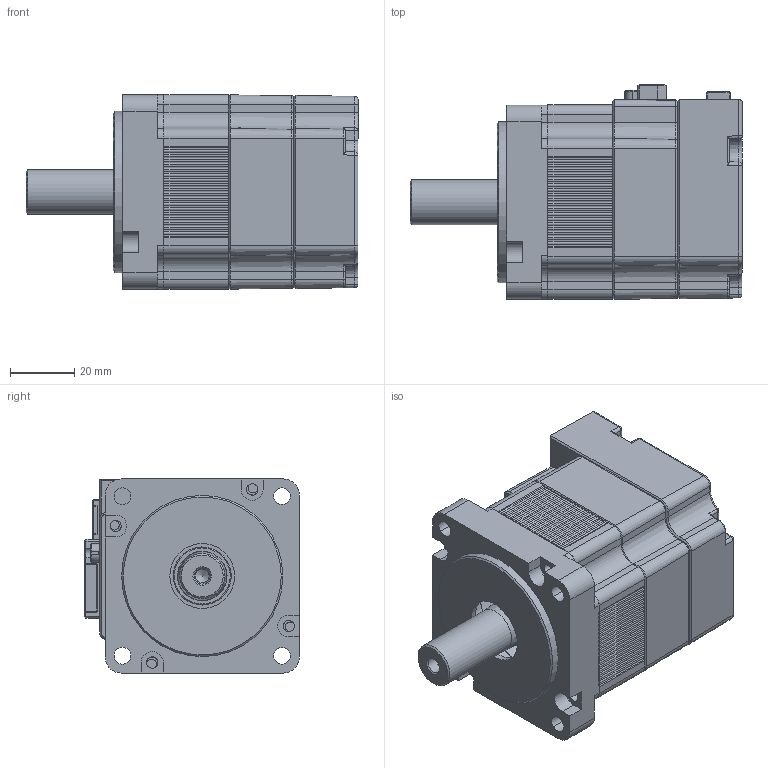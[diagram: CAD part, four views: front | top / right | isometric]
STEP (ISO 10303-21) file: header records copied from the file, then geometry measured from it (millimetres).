
FILE_DESCRIPTION (( 'STEP AP203' ), '1' );
FILE_NAME ('﹤60-200W NON-BRAKE ASS''Y(棻檜議蝶た 瞳辨)_rev02.STEP', '2024-09-12T05:56:53', ( '' ), ( '' ), 'SwSTEP 2.0', 'SolidWorks 2023', '' );
FILE_SCHEMA (( 'CONFIG_CONTROL_DESIGN' ));
Length unit declared in the file: millimetre
Products named in the file (8): 60-200W 야스카와 베어링 변경 플랜지; □60-200W NON-BRAKE ASS''Y(다이캐스팅 적용)_rev02; □60-200W SHAFT(세메스); □60 BRACKET(NON BRAKE)_다이캐스팅 가공도; ENCODER Receptacle; □60-200W FRAME; POWER RECEPTACLE; □60 ENCODER COVER_다이캐스팅 가공도
Assembly tree (7 placements, depth 2):
  □60-200W NON-BRAKE ASS''Y(다이캐스팅 적용)_rev02
    □60-200W FRAME
    ENCODER Receptacle
    POWER RECEPTACLE
    □60 ENCODER COVER_다이캐스팅 가공도
    □60 BRACKET(NON BRAKE)_다이캐스팅 가공도
    □60-200W SHAFT(세메스)
    60-200W 야스카와 베어링 변경 플랜지
Bounding box: 103 x 66.65 x 60.3 mm (x, y, z)
Volume: 99868.9 mm3; surface area: 61413.7 mm2
Topology: 7 solids, 13 shells, 1638 faces, 4210 edges, 2658 vertices
Faces by surface type: plane 964, cylinder 380, bspline 133, cone 108, torus 41, sphere 12
Full cylindrical faces by diameter (mm): 1.93 x1, 2 x9, 2.6 x2, 3 x10, 3.2 x1, 3.5 x4, 4 x1, 4.25 x1, 4.3 x4, 5 x1, 14 x1, 14.8 x1, 15 x1, 17 x1, 18 x1, 20.103 x1, 26 x1, 37 x1, 40.103 x1, 49 x1, 50 x1, 50.2 x1, 51.8 x1, 56.6 x2, 56.703 x1
Entity records: 52677 total; most frequent: CARTESIAN_POINT 13042, ORIENTED_EDGE 8204, DIRECTION 7722, EDGE_CURVE 4102, LINE 2738, VECTOR 2738, VERTEX_POINT 2643, AXIS2_PLACEMENT_3D 2492
